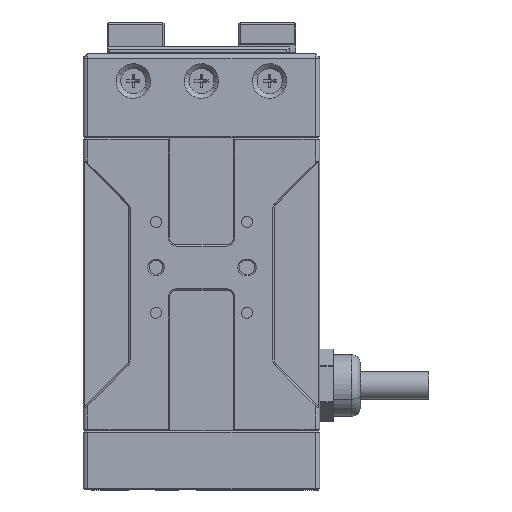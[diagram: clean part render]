
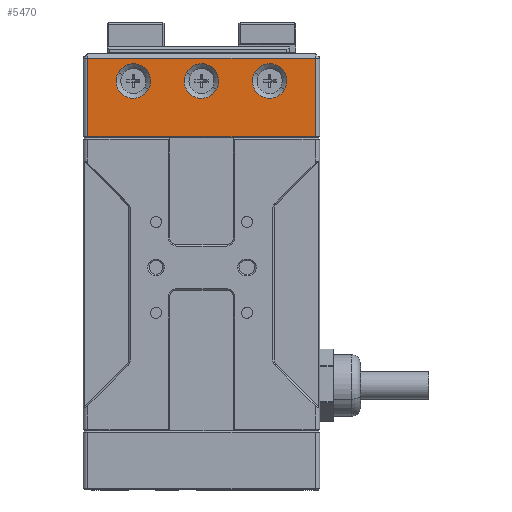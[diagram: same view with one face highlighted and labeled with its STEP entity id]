
A CAD part, front view. The second image highlights one B-rep face of the part: STEP entity #5470.
In plain terms, the highlighted planar face has unit normal (0, -1, 0).
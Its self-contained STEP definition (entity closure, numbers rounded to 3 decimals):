
#3418=CARTESIAN_POINT('Line Origine',(-29.8,-15.666,61.139)) ;
#3422=CARTESIAN_POINT('Vertex',(-29.8,-15.666,52.189)) ;
#3424=CARTESIAN_POINT('Vertex',(-29.8,-15.666,69.389)) ;
#3672=CARTESIAN_POINT('Vertex',(20.2,-15.666,69.389)) ;
#3675=CARTESIAN_POINT('Line Origine',(20.2,-15.666,61.139)) ;
#3679=CARTESIAN_POINT('Vertex',(20.2,-15.666,52.189)) ;
#5395=CARTESIAN_POINT('Axis2P3D Location',(21.2,-15.666,51.889)) ;
#5400=CARTESIAN_POINT('Line Origine',(-4.8,-15.666,52.189)) ;
#5405=CARTESIAN_POINT('Line Origine',(-4.8,-15.666,69.389)) ;
#5416=CARTESIAN_POINT('Axis2P3D Location',(10.2,-15.666,64.389)) ;
#5420=CARTESIAN_POINT('Vertex',(6.865,-15.666,66.211)) ;
#5422=CARTESIAN_POINT('Vertex',(13.535,-15.666,62.567)) ;
#5425=CARTESIAN_POINT('Axis2P3D Location',(10.2,-15.666,64.389)) ;
#5434=CARTESIAN_POINT('Axis2P3D Location',(-4.8,-15.666,64.389)) ;
#5438=CARTESIAN_POINT('Vertex',(-8.135,-15.666,66.211)) ;
#5440=CARTESIAN_POINT('Vertex',(-1.465,-15.666,62.567)) ;
#5443=CARTESIAN_POINT('Axis2P3D Location',(-4.8,-15.666,64.389)) ;
#5452=CARTESIAN_POINT('Axis2P3D Location',(-19.8,-15.666,64.389)) ;
#5456=CARTESIAN_POINT('Vertex',(-23.135,-15.666,66.211)) ;
#5458=CARTESIAN_POINT('Vertex',(-16.465,-15.666,62.567)) ;
#5461=CARTESIAN_POINT('Axis2P3D Location',(-19.8,-15.666,64.389)) ;
#3419=DIRECTION('Vector Direction',(0.,0.,1.)) ;
#3676=DIRECTION('Vector Direction',(0.,0.,1.)) ;
#5396=DIRECTION('Axis2P3D Direction',(0.,1.,-0.)) ;
#5397=DIRECTION('Axis2P3D XDirection',(-1.,0.,0.)) ;
#5401=DIRECTION('Vector Direction',(-1.,0.,0.)) ;
#5406=DIRECTION('Vector Direction',(1.,0.,0.)) ;
#5417=DIRECTION('Axis2P3D Direction',(0.,1.,-0.)) ;
#5426=DIRECTION('Axis2P3D Direction',(0.,1.,-0.)) ;
#5435=DIRECTION('Axis2P3D Direction',(0.,1.,-0.)) ;
#5444=DIRECTION('Axis2P3D Direction',(0.,1.,-0.)) ;
#5453=DIRECTION('Axis2P3D Direction',(0.,1.,-0.)) ;
#5462=DIRECTION('Axis2P3D Direction',(0.,1.,-0.)) ;
#5398=AXIS2_PLACEMENT_3D('Plane Axis2P3D',#5395,#5396,#5397) ;
#5418=AXIS2_PLACEMENT_3D('Circle Axis2P3D',#5416,#5417,$) ;
#5427=AXIS2_PLACEMENT_3D('Circle Axis2P3D',#5425,#5426,$) ;
#5436=AXIS2_PLACEMENT_3D('Circle Axis2P3D',#5434,#5435,$) ;
#5445=AXIS2_PLACEMENT_3D('Circle Axis2P3D',#5443,#5444,$) ;
#5454=AXIS2_PLACEMENT_3D('Circle Axis2P3D',#5452,#5453,$) ;
#5463=AXIS2_PLACEMENT_3D('Circle Axis2P3D',#5461,#5462,$) ;
#5411=ORIENTED_EDGE('',*,*,#5404,.T.) ;
#5412=ORIENTED_EDGE('',*,*,#3681,.T.) ;
#5413=ORIENTED_EDGE('',*,*,#5409,.F.) ;
#5414=ORIENTED_EDGE('',*,*,#3426,.F.) ;
#5431=ORIENTED_EDGE('',*,*,#5424,.T.) ;
#5432=ORIENTED_EDGE('',*,*,#5429,.T.) ;
#5449=ORIENTED_EDGE('',*,*,#5442,.T.) ;
#5450=ORIENTED_EDGE('',*,*,#5447,.T.) ;
#5467=ORIENTED_EDGE('',*,*,#5460,.T.) ;
#5468=ORIENTED_EDGE('',*,*,#5465,.T.) ;
#5433=FACE_BOUND('',#5430,.T.) ;
#5451=FACE_BOUND('',#5448,.T.) ;
#5469=FACE_BOUND('',#5466,.T.) ;
#3420=VECTOR('Line Direction',#3419,1.) ;
#3677=VECTOR('Line Direction',#3676,1.) ;
#5402=VECTOR('Line Direction',#5401,1.) ;
#5407=VECTOR('Line Direction',#5406,1.) ;
#5470=ADVANCED_FACE('\X2\96F64EF651E04F554F53\X0\',(#5415,#5433,#5451,#5469),#5399,.F.) ;
#5419=CIRCLE('generated circle',#5418,3.8) ;
#5428=CIRCLE('generated circle',#5427,3.8) ;
#5437=CIRCLE('generated circle',#5436,3.8) ;
#5446=CIRCLE('generated circle',#5445,3.8) ;
#5455=CIRCLE('generated circle',#5454,3.8) ;
#5464=CIRCLE('generated circle',#5463,3.8) ;
#3426=EDGE_CURVE('',#3423,#3425,#3421,.T.) ;
#3681=EDGE_CURVE('',#3680,#3673,#3678,.T.) ;
#5404=EDGE_CURVE('',#3423,#3680,#5403,.F.) ;
#5409=EDGE_CURVE('',#3425,#3673,#5408,.T.) ;
#5424=EDGE_CURVE('',#5421,#5423,#5419,.T.) ;
#5429=EDGE_CURVE('',#5423,#5421,#5428,.T.) ;
#5442=EDGE_CURVE('',#5439,#5441,#5437,.T.) ;
#5447=EDGE_CURVE('',#5441,#5439,#5446,.T.) ;
#5460=EDGE_CURVE('',#5457,#5459,#5455,.T.) ;
#5465=EDGE_CURVE('',#5459,#5457,#5464,.T.) ;
#5410=EDGE_LOOP('',(#5411,#5412,#5413,#5414)) ;
#5430=EDGE_LOOP('',(#5431,#5432)) ;
#5448=EDGE_LOOP('',(#5449,#5450)) ;
#5466=EDGE_LOOP('',(#5467,#5468)) ;
#5415=FACE_OUTER_BOUND('',#5410,.T.) ;
#3421=LINE('Line',#3418,#3420) ;
#3678=LINE('Line',#3675,#3677) ;
#5403=LINE('Line',#5400,#5402) ;
#5408=LINE('Line',#5405,#5407) ;
#5399=PLANE('Plane',#5398) ;
#3423=VERTEX_POINT('',#3422) ;
#3425=VERTEX_POINT('',#3424) ;
#3673=VERTEX_POINT('',#3672) ;
#3680=VERTEX_POINT('',#3679) ;
#5421=VERTEX_POINT('',#5420) ;
#5423=VERTEX_POINT('',#5422) ;
#5439=VERTEX_POINT('',#5438) ;
#5441=VERTEX_POINT('',#5440) ;
#5457=VERTEX_POINT('',#5456) ;
#5459=VERTEX_POINT('',#5458) ;
